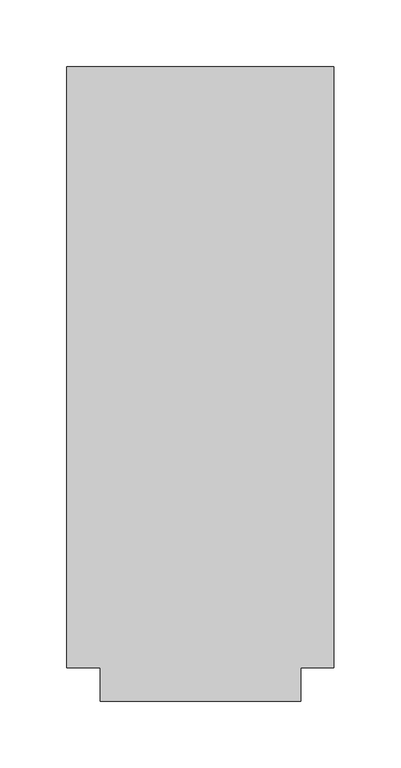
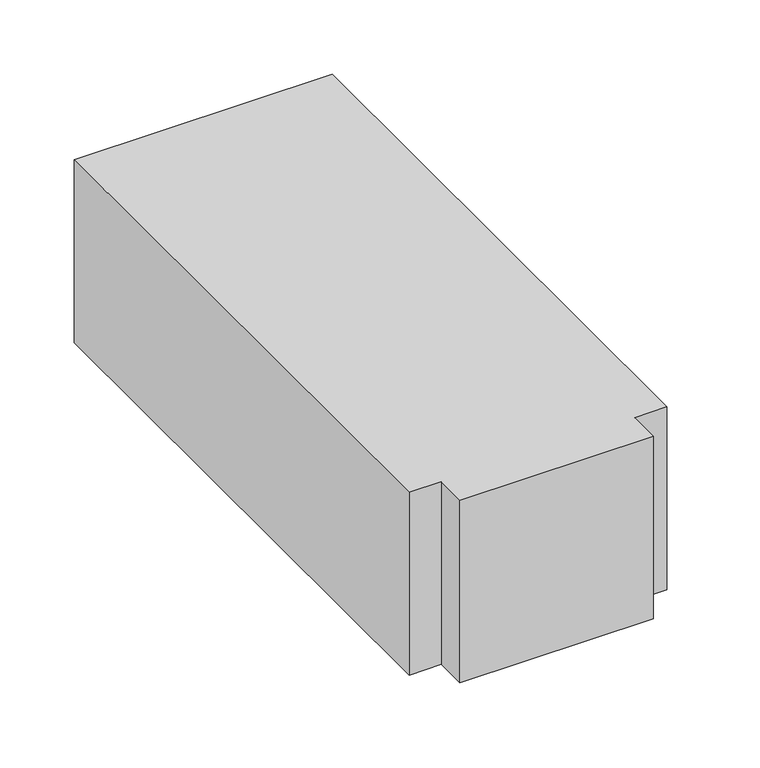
"""IFC4 building model written with IfcOpenShell, lengths in millimetres: duct fitting geometry, M_Te rectangular : Estándar."""

from ifc_helpers import new_model, si_unit, frame, origin, place, context, project, spatial, polyline, outline, extrude, source, transform, mapped, element, save


def duct_fitting_2ce8055c(model_context):
    return source(origin(), model_context, "Body", "SweptSolid", [
        extrude(outline(polyline([(-100.0, -225.0), (-100.0, 225.0), (100.0, 225.0), (100.0, -225.0), (75.0, -225.0), (75.0, -250.0), (-75.0, -250.0), (-75.0, -225.0), (-100.0, -225.0)])), frame((0.0, 0.0, -75.0), z_axis=(0.0, 0.0, 1.0), x_axis=(1.0, 0.0, 0.0)), (0.0, 0.0, 1.0), 150.0),
    ])


if __name__ == "__main__":
    model = new_model("IFC4")
    model_context = context("Model", 3, world=origin())
    ifc_project = project(units=[si_unit("LENGTHUNIT", "METRE", prefix="MILLI")], contexts=[model_context])
    site = spatial("IfcSite", under=ifc_project)
    building = spatial("IfcBuilding", under=site)
    placement = place(None, origin())
    duct_fitting_shape = duct_fitting_2ce8055c(model_context)
    element("IfcDuctFitting", 1, ObjectType="M_Te rectangular : Estándar", at=placement, inside=building, context=model_context, shape_type="MappedRepresentation", body=[
        mapped(duct_fitting_shape, transform((0.0, 0.0, 0.0), x_axis=(1.0, 0.0, 0.0), y_axis=(0.0, 1.0, 0.0), z_axis=(0.0, 0.0, 1.0))),
    ])
    save(model, "model.ifc")
